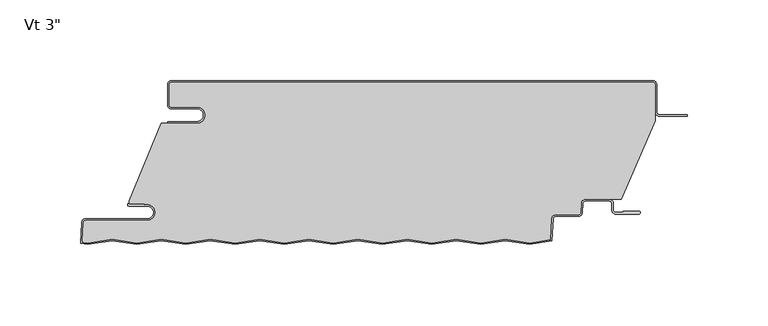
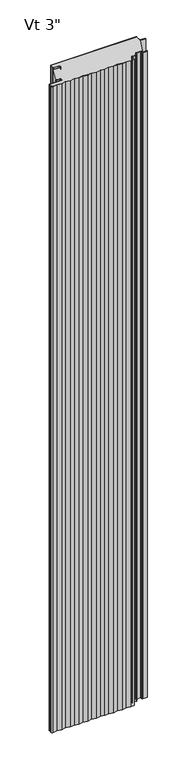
"""IFC4 building model written with IfcOpenShell, lengths in millimetres: plate geometry."""

from ifc_helpers import new_model, si_unit, point, frame, frame_2d, origin, origin_with_axes, place, context, project, spatial, polyline, circle_curve, ellipse_curve, trimmed, segment, composite_curve, outline, extrude, source, transform, mapped, element, save
from ifc_brep_helpers import plane_surface, cylinder_surface, revolved_surface, extruded_surface, advanced_brep


def plate_24a66fb3(model_context):
    return source(origin(), model_context, "Body", "SolidModel", [
        extrude(outline(composite_curve([segment(polyline([(-133.35625, -16.4625), (-149.23125, -16.4625)]), True, "CONTINUOUS"), segment(trimmed(circle_curve(frame_2d((-149.23125, -15.08125)), 1.38125), [point((-149.23125, -16.4625))], [point((-150.6125, -15.08125))], False, "CARTESIAN"), True, "CONTINUOUS"), segment(polyline([(-150.6125, -15.08125), (-150.6125, -2.38125)]), True, "CONTINUOUS"), segment(trimmed(circle_curve(frame_2d((-149.23125, -2.38125)), 1.38125), [point((-150.6125, -2.38125))], [point((-149.23125, -1.0))], False, "CARTESIAN"), True, "CONTINUOUS"), segment(polyline([(-149.23125, -1.0), (149.21875, -1.0)]), True, "CONTINUOUS"), segment(trimmed(circle_curve(frame_2d((149.21875, -2.38125)), 1.38125), [point((149.21875, -1.0))], [point((150.6, -2.38125))], False, "CARTESIAN"), True, "CONTINUOUS"), segment(polyline([(150.6, -2.38125), (150.6, -24.9057308), (129.7830434, -73.6125), (107.3415783, -73.6125)]), True, "CONTINUOUS"), segment(trimmed(circle_curve(frame_2d((107.3415783, -76.2)), 2.5875), [point((107.3415783, -73.6125))], [point((104.7576244, -76.0645807))], True, "CARTESIAN"), True, "CONTINUOUS"), segment(polyline([(104.7576244, -76.0645807), (104.4555481, -81.828539)]), True, "CONTINUOUS"), segment(trimmed(circle_curve(frame_2d((103.0761911, -81.75625)), 1.38125), [point((104.4555481, -81.828539))], [point((103.0761911, -83.1375))], False, "CARTESIAN"), True, "CONTINUOUS"), segment(polyline([(103.0761911, -83.1375), (88.9198847, -83.1375)]), True, "CONTINUOUS"), segment(trimmed(circle_curve(frame_2d((88.9198847, -85.725)), 2.5875), [point((88.9198847, -83.1375))], [point((86.3359307, -85.5895807))], True, "CARTESIAN"), True, "CONTINUOUS"), segment(polyline([(86.3359307, -85.5895807), (85.6427661, -98.81595), (72.86, -100.8611926), (57.8225675, -98.4552034), (42.5825675, -100.8936034), (27.3425675, -98.4552034), (12.1025675, -100.8936034), (-3.1374325, -98.4552034), (-18.3774325, -100.8936034), (-33.6174325, -98.4552034), (-48.8574325, -100.8936034), (-64.0974325, -98.4552034), (-79.3374325, -100.8936034), (-94.5774325, -98.4552034), (-109.8174325, -100.8936034), (-125.0574325, -98.4552034), (-140.2974325, -100.8936034), (-155.5374325, -98.4552034), (-170.7774325, -100.8936034), (-186.0174325, -98.4552034), (-201.2574325, -100.8936034), (-203.5234208, -100.5310452)]), True, "CONTINUOUS"), segment(trimmed(circle_curve(frame_2d((-203.0924535, -99.21875)), 1.38125), [point((-203.5234208, -100.5310452))], [point((-204.4718106, -99.146461))], False, "CARTESIAN"), True, "CONTINUOUS"), segment(polyline([(-204.4718106, -99.146461), (-203.8894291, -88.033961)]), True, "CONTINUOUS"), segment(trimmed(circle_curve(frame_2d((-202.5100721, -88.10625)), 1.38125), [point((-203.8894291, -88.033961))], [point((-202.5100721, -86.725))], False, "CARTESIAN"), True, "CONTINUOUS"), segment(polyline([(-202.5100721, -86.725), (-164.3267674, -86.725)]), True, "CONTINUOUS"), segment(trimmed(circle_curve(frame_2d((-164.3267674, -81.75625)), 4.96875), [point((-164.3267674, -86.725))], [point((-164.3267674, -76.7875))], True, "CARTESIAN"), True, "CONTINUOUS"), segment(polyline([(-164.3267674, -76.7875), (-165.9142674, -76.99375), (-165.9142674, -76.2), (-175.425, -76.2), (-175.425, -74.6157227), (-155.5385922, -26.4), (-133.35625, -26.4)]), True, "CONTINUOUS"), segment(trimmed(circle_curve(frame_2d((-133.35625, -21.43125)), 4.96875), [point((-133.35625, -26.4))], [point((-133.35625, -16.4625))], True, "CARTESIAN"), True, "CONTINUOUS")], self_intersect=False)), origin_with_axes(), (0.0, 0.0, 1.0), 2400.0),
        extrude(outline(composite_curve([segment(polyline([(-151.6125, -25.4), (-133.35625, -25.4)]), True, "CONTINUOUS"), segment(trimmed(circle_curve(frame_2d((-133.35625, -21.43125)), 3.96875), [point((-133.35625, -25.4))], [point((-133.35625, -17.4625))], True, "CARTESIAN"), True, "CONTINUOUS"), segment(polyline([(-133.35625, -17.4625), (-149.23125, -17.4625)]), True, "CONTINUOUS"), segment(trimmed(circle_curve(frame_2d((-149.23125, -15.08125)), 2.38125), [point((-149.23125, -17.4625))], [point((-151.6125, -15.08125))], False, "CARTESIAN"), True, "CONTINUOUS"), segment(polyline([(-151.6125, -15.08125), (-151.6125, -2.38125)]), True, "CONTINUOUS"), segment(trimmed(circle_curve(frame_2d((-149.23125, -2.38125)), 2.38125), [point((-151.6125, -2.38125))], [point((-149.23125, 0.0))], False, "CARTESIAN"), True, "CONTINUOUS"), segment(polyline([(-149.23125, 0.0), (149.21875, 0.0)]), True, "CONTINUOUS"), segment(trimmed(circle_curve(frame_2d((149.21875, -2.38125)), 2.38125), [point((149.21875, 0.0))], [point((151.6, -2.38125))], False, "CARTESIAN"), True, "CONTINUOUS"), segment(polyline([(151.6, -2.38125), (151.6, -19.446875)]), True, "CONTINUOUS"), segment(trimmed(circle_curve(frame_2d((153.1875, -19.446875)), 1.5875), [point((151.6, -19.446875))], [point((153.1875, -21.034375))], True, "CARTESIAN"), True, "CONTINUOUS"), segment(polyline([(153.1875, -21.034375), (170.65, -21.034375), (170.65, -22.034375), (153.1875, -22.034375)]), True, "CONTINUOUS"), segment(trimmed(circle_curve(frame_2d((153.1875, -19.446875)), 2.5875), [point((153.1875, -22.034375))], [point((150.6, -19.446875))], False, "CARTESIAN"), True, "CONTINUOUS"), segment(polyline([(150.6, -19.446875), (150.6, -2.38125)]), True, "CONTINUOUS"), segment(trimmed(circle_curve(frame_2d((149.21875, -2.38125)), 1.38125), [point((150.6, -2.38125))], [point((149.21875, -1.0))], True, "CARTESIAN"), True, "CONTINUOUS"), segment(polyline([(149.21875, -1.0), (-149.23125, -1.0)]), True, "CONTINUOUS"), segment(trimmed(circle_curve(frame_2d((-149.23125, -2.38125)), 1.38125), [point((-149.23125, -1.0))], [point((-150.6125, -2.38125))], True, "CARTESIAN"), True, "CONTINUOUS"), segment(polyline([(-150.6125, -2.38125), (-150.6125, -15.08125)]), True, "CONTINUOUS"), segment(trimmed(circle_curve(frame_2d((-149.23125, -15.08125)), 1.38125), [point((-150.6125, -15.08125))], [point((-149.23125, -16.4625))], True, "CARTESIAN"), True, "CONTINUOUS"), segment(polyline([(-149.23125, -16.4625), (-133.35625, -16.4625)]), True, "CONTINUOUS"), segment(trimmed(circle_curve(frame_2d((-133.35625, -21.43125)), 4.96875), [point((-133.35625, -16.4625))], [point((-133.35625, -26.4))], False, "CARTESIAN"), True, "CONTINUOUS"), segment(polyline([(-133.35625, -26.4), (-151.6125, -26.4), (-151.6125, -25.4)]), True, "CONTINUOUS")], self_intersect=False)), origin_with_axes(), (0.0, 0.0, 1.0), 2400.0),
        advanced_brep(
        [(-175.6377049, -76.2, 2400.0), (-175.6377049, -77.7875, 2400.0), (-164.3267674, -77.7875, 2400.0), (-164.3267674, -85.725, 2400.0), (-202.5100721, -85.725, 2400.0), (-204.8880586, -87.981625, 2400.0), (-205.5658062, -100.913818, 2400.0), (-201.2771686, -101.6, 2400.0), (-186.0371686, -99.1616, 2400.0), (-170.7971686, -101.6, 2400.0), (-155.5571686, -99.1616, 2400.0), (-140.3171686, -101.6, 2400.0), (-125.0771686, -99.1616, 2400.0), (-109.8371686, -101.6, 2400.0), (-94.5971686, -99.1616, 2400.0), (-79.3571686, -101.6, 2400.0), (-64.1171686, -99.1616, 2400.0), (-48.8771686, -101.6, 2400.0), (-33.6371686, -99.1616, 2400.0), (-18.3971686, -101.6, 2400.0), (-3.1571686, -99.1616, 2400.0), (12.0828314, -101.6, 2400.0), (27.3228314, -99.1616, 2400.0), (42.5628314, -101.6, 2400.0), (57.8028314, -99.1616, 2400.0), (72.9415476, -101.5837946, 2400.0), (86.6120135, -99.4289309, 2400.0), (87.3345603, -85.6419167, 2400.0), (88.9198847, -84.1375, 2400.0), (103.0761911, -84.1375, 2400.0), (105.4541776, -81.880875, 2400.0), (105.7562539, -76.1169167, 2400.0), (107.3415783, -74.6125, 2400.0), (122.2169826, -74.6125, 2400.0), (123.8044826, -76.2, 2400.0), (123.8044826, -80.3671875, 2400.0), (126.1857326, -82.7484375, 2400.0), (140.6773532, -82.7484375, 2400.0), (140.6773532, -80.9546875, 2400.0), (130.9482326, -80.9546875, 2400.0), (130.9482326, -81.7484375, 2400.0), (126.1857326, -81.7484375, 2400.0), (124.8044826, -80.3671875, 2400.0), (124.8044826, -76.2, 2400.0), (122.2169826, -73.6125, 2400.0), (107.3415783, -73.6125, 2400.0), (104.7576244, -76.0645807, 2400.0), (104.4555481, -81.828539, 2400.0), (103.0761911, -83.1375, 2400.0), (88.9198847, -83.1375, 2400.0), (86.3359307, -85.5895807, 2400.0), (85.6556965, -98.5692225, 2400.0), (73.0428314, -100.5872809, 2400.0), (57.8028314, -98.1488809, 2400.0), (42.5628314, -100.5872809, 2400.0), (27.3228314, -98.1488809, 2400.0), (12.0828314, -100.5872809, 2400.0), (-3.1571686, -98.1488809, 2400.0), (-18.3971686, -100.5872809, 2400.0), (-33.6371686, -98.1488809, 2400.0), (-48.8771686, -100.5872809, 2400.0), (-64.1171686, -98.1488809, 2400.0), (-79.3571686, -100.5872809, 2400.0), (-94.5971686, -98.1488809, 2400.0), (-109.8371686, -100.5872809, 2400.0), (-125.0771686, -98.1488809, 2400.0), (-140.3171686, -100.5872809, 2400.0), (-155.5571686, -98.1488809, 2400.0), (-170.7971686, -100.5872809, 2400.0), (-186.0371686, -98.1488809, 2400.0), (-201.2771686, -100.5872809, 2400.0), (-204.5201277, -100.0684074, 2400.0), (-203.8894291, -88.033961, 2400.0), (-202.5100721, -86.725, 2400.0), (-164.3267674, -86.725, 2400.0), (-164.3267674, -76.7875, 2400.0), (-165.9142674, -76.99375, 2400.0), (-165.9142674, -76.2, 2400.0), (-175.6377049, -76.2, 0.0), (-165.9142674, -76.2, 0.0), (-165.9142674, -76.99375, 0.0), (-164.3267674, -76.7875, 0.0), (-164.3267674, -86.725, 0.0), (-202.5100721, -86.725, 0.0), (-203.8894291, -88.033961, 0.0), (-204.5201277, -100.0684074, 0.0), (-201.2771686, -100.5872809, 0.0), (-186.0371686, -98.1488809, 0.0), (-170.7971686, -100.5872809, 0.0), (-155.5571686, -98.1488809, 0.0), (-140.3171686, -100.5872809, 0.0), (-125.0771686, -98.1488809, 0.0), (-109.8371686, -100.5872809, 0.0), (-94.5971686, -98.1488809, 0.0), (-79.3571686, -100.5872809, 0.0), (-64.1171686, -98.1488809, 0.0), (-48.8771686, -100.5872809, 0.0), (-33.6371686, -98.1488809, 0.0), (-18.3971686, -100.5872809, 0.0), (-3.1571686, -98.1488809, 0.0), (12.0828314, -100.5872809, 0.0), (27.3228314, -98.1488809, 0.0), (42.5628314, -100.5872809, 0.0), (57.8028314, -98.1488809, 0.0), (72.9415476, -100.5710755, 0.0), (85.6556965, -98.5692225, 0.0), (86.3359307, -85.5895807, 0.0), (88.9198847, -83.1375, 0.0), (103.0761911, -83.1375, 0.0), (104.4555481, -81.828539, 0.0), (104.7576244, -76.0645807, 0.0), (107.3415783, -73.6125, 0.0), (122.2169826, -73.6125, 0.0), (124.8044826, -76.2, 0.0), (124.8044826, -80.3671875, 0.0), (126.1857326, -81.7484375, 0.0), (130.9482326, -81.7484375, 0.0), (130.9482326, -80.9546875, 0.0), (140.6773532, -80.9546875, 0.0), (140.6773532, -82.7484375, 0.0), (126.1857326, -82.7484375, 0.0), (123.8044826, -80.3671875, 0.0), (123.8044826, -76.2, 0.0), (122.2169826, -74.6125, 0.0), (107.3415783, -74.6125, 0.0), (105.7562539, -76.1169167, 0.0), (105.4541776, -81.880875, 0.0), (103.0761911, -84.1375, 0.0), (88.9198847, -84.1375, 0.0), (87.3345603, -85.6419167, 0.0), (86.6120135, -99.4289309, 0.0), (73.0428314, -101.6, 0.0), (57.8028314, -99.1616, 0.0), (42.5628314, -101.6, 0.0), (27.3228314, -99.1616, 0.0), (12.0828314, -101.6, 0.0), (-3.1571686, -99.1616, 0.0), (-18.3971686, -101.6, 0.0), (-33.6371686, -99.1616, 0.0), (-48.8771686, -101.6, 0.0), (-64.1171686, -99.1616, 0.0), (-79.3571686, -101.6, 0.0), (-94.5971686, -99.1616, 0.0), (-109.8371686, -101.6, 0.0), (-125.0771686, -99.1616, 0.0), (-140.3171686, -101.6, 0.0), (-155.5571686, -99.1616, 0.0), (-170.7971686, -101.6, 0.0), (-186.0371686, -99.1616, 0.0), (-201.2771686, -101.6, 0.0), (-205.5658062, -100.913818, 0.0), (-204.8880586, -87.981625, 0.0), (-202.5100721, -85.725, 0.0), (-164.3267674, -85.725, 0.0), (-164.3267674, -77.7875, 0.0), (-175.6377049, -77.7875, 0.0)],
        [
            (0, 1, circle_curve(frame((-175.6377049, -76.99375, 2400.0), z_axis=(0.0, 0.0, 1.0), x_axis=(1.0, 0.0, 0.0)), 0.79375)),
            (1, 2),
            (2, 3, circle_curve(frame((-164.3267674, -81.75625, 2400.0), z_axis=(0.0, 0.0, -1.0), x_axis=(1.0, 0.0, 0.0)), 3.96875)),
            (3, 4),
            (4, 5, circle_curve(frame((-202.5100721, -88.10625, 2400.0), z_axis=(0.0, 0.0, 1.0), x_axis=(1.0, 0.0, 0.0)), 2.38125)),
            (5, 6),
            (6, 7),
            (7, 8),
            (8, 9),
            (9, 10),
            (10, 11),
            (11, 12),
            (12, 13),
            (13, 14),
            (14, 15),
            (15, 16),
            (16, 17),
            (17, 18),
            (18, 19),
            (19, 20),
            (20, 21),
            (21, 22),
            (22, 23),
            (23, 24),
            (24, 25),
            (25, 26),
            (26, 27),
            (27, 28, circle_curve(frame((88.9198847, -85.725, 2400.0), z_axis=(0.0, 0.0, -1.0), x_axis=(1.0, 0.0, 0.0)), 1.5875)),
            (28, 29),
            (29, 30, circle_curve(frame((103.0761911, -81.75625, 2400.0), z_axis=(0.0, 0.0, 1.0), x_axis=(1.0, 0.0, 0.0)), 2.38125)),
            (30, 31),
            (31, 32, circle_curve(frame((107.3415783, -76.2, 2400.0), z_axis=(0.0, 0.0, -1.0), x_axis=(1.0, 0.0, 0.0)), 1.5875)),
            (32, 33),
            (33, 34, circle_curve(frame((122.2169826, -76.2, 2400.0), z_axis=(0.0, 0.0, -1.0), x_axis=(1.0, 0.0, 0.0)), 1.5875)),
            (34, 35),
            (35, 36, circle_curve(frame((126.1857326, -80.3671875, 2400.0), z_axis=(0.0, 0.0, 1.0), x_axis=(1.0, 0.0, 0.0)), 2.38125)),
            (36, 37),
            (37, 38, ellipse_curve(frame((140.6773532, -81.8515625, 2400.0), z_axis=(0.0, 0.0, 1.0), x_axis=(0.0, 1.0, 0.0)), 0.896875, 0.7852275)),
            (38, 39),
            (39, 40),
            (40, 41),
            (41, 42, circle_curve(frame((126.1857326, -80.3671875, 2400.0), z_axis=(0.0, 0.0, -1.0), x_axis=(1.0, 0.0, 0.0)), 1.38125)),
            (42, 43),
            (43, 44, circle_curve(frame((122.2169826, -76.2, 2400.0), z_axis=(0.0, 0.0, 1.0), x_axis=(1.0, 0.0, 0.0)), 2.5875)),
            (44, 45),
            (45, 46, circle_curve(frame((107.3415783, -76.2, 2400.0), z_axis=(0.0, 0.0, 1.0), x_axis=(1.0, 0.0, 0.0)), 2.5875)),
            (46, 47),
            (47, 48, circle_curve(frame((103.0761911, -81.75625, 2400.0), z_axis=(0.0, 0.0, -1.0), x_axis=(1.0, 0.0, 0.0)), 1.38125)),
            (48, 49),
            (49, 50, circle_curve(frame((88.9198847, -85.725, 2400.0), z_axis=(0.0, 0.0, 1.0), x_axis=(1.0, 0.0, 0.0)), 2.5875)),
            (50, 51),
            (51, 52),
            (52, 53),
            (53, 54),
            (54, 55),
            (55, 56),
            (56, 57),
            (57, 58),
            (58, 59),
            (59, 60),
            (60, 61),
            (61, 62),
            (62, 63),
            (63, 64),
            (64, 65),
            (65, 66),
            (66, 67),
            (67, 68),
            (68, 69),
            (69, 70),
            (70, 71),
            (71, 72),
            (72, 73, circle_curve(frame((-202.5100721, -88.10625, 2400.0), z_axis=(0.0, 0.0, -1.0), x_axis=(1.0, 0.0, 0.0)), 1.38125)),
            (73, 74),
            (74, 75, circle_curve(frame((-164.3267674, -81.75625, 2400.0), z_axis=(0.0, 0.0, 1.0), x_axis=(1.0, 0.0, 0.0)), 4.96875)),
            (75, 76),
            (76, 77),
            (77, 0),
            (78, 79),
            (79, 80),
            (80, 81),
            (81, 82, circle_curve(frame((-164.3267674, -81.75625, 0.0), z_axis=(0.0, 0.0, -1.0), x_axis=(1.0, 0.0, 0.0)), 4.96875)),
            (82, 83),
            (83, 84, circle_curve(frame((-202.5100721, -88.10625, 0.0), z_axis=(0.0, 0.0, 1.0), x_axis=(1.0, 0.0, 0.0)), 1.38125)),
            (84, 85),
            (85, 86),
            (86, 87),
            (87, 88),
            (88, 89),
            (89, 90),
            (90, 91),
            (91, 92),
            (92, 93),
            (93, 94),
            (94, 95),
            (95, 96),
            (96, 97),
            (97, 98),
            (98, 99),
            (99, 100),
            (100, 101),
            (101, 102),
            (102, 103),
            (103, 104),
            (104, 105),
            (105, 106),
            (106, 107, circle_curve(frame((88.9198847, -85.725, 0.0), z_axis=(0.0, 0.0, -1.0), x_axis=(1.0, 0.0, 0.0)), 2.5875)),
            (107, 108),
            (108, 109, circle_curve(frame((103.0761911, -81.75625, 0.0), z_axis=(0.0, 0.0, 1.0), x_axis=(1.0, 0.0, 0.0)), 1.38125)),
            (109, 110),
            (110, 111, circle_curve(frame((107.3415783, -76.2, 0.0), z_axis=(0.0, 0.0, -1.0), x_axis=(1.0, 0.0, 0.0)), 2.5875)),
            (111, 112),
            (112, 113, circle_curve(frame((122.2169826, -76.2, 0.0), z_axis=(0.0, 0.0, -1.0), x_axis=(1.0, 0.0, 0.0)), 2.5875)),
            (113, 114),
            (114, 115, circle_curve(frame((126.1857326, -80.3671875, 0.0), z_axis=(0.0, 0.0, 1.0), x_axis=(1.0, 0.0, 0.0)), 1.38125)),
            (115, 116),
            (116, 117),
            (117, 118),
            (118, 119, ellipse_curve(frame((140.6773532, -81.8515625, 0.0), z_axis=(0.0, 0.0, -1.0), x_axis=(0.0, 1.0, 0.0)), 0.896875, 0.7852275)),
            (119, 120),
            (120, 121, circle_curve(frame((126.1857326, -80.3671875, 0.0), z_axis=(0.0, 0.0, -1.0), x_axis=(1.0, 0.0, 0.0)), 2.38125)),
            (121, 122),
            (122, 123, circle_curve(frame((122.2169826, -76.2, 0.0), z_axis=(0.0, 0.0, 1.0), x_axis=(1.0, 0.0, 0.0)), 1.5875)),
            (123, 124),
            (124, 125, circle_curve(frame((107.3415783, -76.2, 0.0), z_axis=(0.0, 0.0, 1.0), x_axis=(1.0, 0.0, 0.0)), 1.5875)),
            (125, 126),
            (126, 127, circle_curve(frame((103.0761911, -81.75625, 0.0), z_axis=(0.0, 0.0, -1.0), x_axis=(1.0, 0.0, 0.0)), 2.38125)),
            (127, 128),
            (128, 129, circle_curve(frame((88.9198847, -85.725, 0.0), z_axis=(0.0, 0.0, 1.0), x_axis=(1.0, 0.0, 0.0)), 1.5875)),
            (129, 130),
            (130, 131),
            (131, 132),
            (132, 133),
            (133, 134),
            (134, 135),
            (135, 136),
            (136, 137),
            (137, 138),
            (138, 139),
            (139, 140),
            (140, 141),
            (141, 142),
            (142, 143),
            (143, 144),
            (144, 145),
            (145, 146),
            (146, 147),
            (147, 148),
            (148, 149),
            (149, 150),
            (150, 151),
            (151, 152, circle_curve(frame((-202.5100721, -88.10625, 0.0), z_axis=(0.0, 0.0, -1.0), x_axis=(1.0, 0.0, 0.0)), 2.38125)),
            (152, 153),
            (153, 154, circle_curve(frame((-164.3267674, -81.75625, 0.0), z_axis=(0.0, 0.0, 1.0), x_axis=(1.0, 0.0, 0.0)), 3.96875)),
            (154, 155),
            (155, 78, circle_curve(frame((-175.6377049, -76.99375, 0.0), z_axis=(0.0, 0.0, -1.0), x_axis=(1.0, 0.0, 0.0)), 0.79375)),
            (77, 79),
            (78, 0),
            (155, 1),
            (154, 2),
            (153, 3),
            (152, 4),
            (151, 5),
            (150, 6),
            (27, 129),
            (128, 28),
            (127, 29),
            (126, 30),
            (125, 31),
            (124, 32),
            (72, 84),
            (83, 73),
            (71, 85),
            (49, 107),
            (106, 50),
            (48, 108),
            (47, 109),
            (46, 110),
            (45, 111),
            (40, 116),
            (115, 41),
            (114, 42),
            (113, 43),
            (123, 33),
            (122, 34),
            (121, 35),
            (120, 36),
            (119, 37),
            (44, 112),
            (82, 74),
            (81, 75),
            (76, 80),
            (39, 117),
            (38, 118),
            (26, 130),
            (105, 51),
            (24, 132),
            (131, 25),
            (52, 104),
            (103, 53),
            (102, 54),
            (101, 55),
            (100, 56),
            (65, 91),
            (90, 66),
            (89, 67),
            (88, 68),
            (87, 69),
            (86, 70),
            (149, 7),
            (148, 8),
            (147, 9),
            (146, 10),
            (145, 11),
            (144, 12),
            (143, 13),
            (142, 14),
            (141, 15),
            (140, 16),
            (139, 17),
            (138, 18),
            (21, 135),
            (134, 22),
            (133, 23),
            (20, 136),
            (19, 137),
            (64, 92),
            (63, 93),
            (62, 94),
            (61, 95),
            (60, 96),
            (59, 97),
            (58, 98),
            (57, 99),
        ],
        [
            plane_surface(frame((-0.00625, -101.6, 2400.0), z_axis=(0.0, 0.0, 1.0), x_axis=(0.0, -1.0, 0.0))),
            plane_surface(frame((-0.00625, -101.6, 0.0), z_axis=(0.0, 0.0, -1.0), x_axis=(0.0, -1.0, 0.0))),
            plane_surface(frame((-175.6377049, -76.2, 2400.0), z_axis=(0.0, 1.0, 0.0), x_axis=(0.0, 0.0, -1.0))),
            cylinder_surface(frame((-175.6377049, -76.99375, 2400.0), z_axis=(0.0, 0.0, 1.0), x_axis=(1.0, 0.0, 0.0)), 0.79375),
            plane_surface(frame((-164.3267674, -77.7875, 2400.0), z_axis=(0.0, -1.0, 0.0), x_axis=(0.0, 0.0, -1.0))),
            revolved_surface(polyline([(-160.3580174, -81.75625, 0.0), (-160.3580174, -81.75625, 2400.0)]), (-164.3267674, -81.75625, 2400.0), (0.0, 0.0, -1.0)),
            plane_surface(frame((-202.5100721, -85.725, 2400.0), z_axis=(0.0, 1.0, 0.0), x_axis=(0.0, 0.0, -1.0))),
            cylinder_surface(frame((-202.5100721, -88.10625, 2400.0), z_axis=(0.0, 0.0, 1.0), x_axis=(1.0, 0.0, 0.0)), 2.38125),
            plane_surface(frame((-205.5658062, -100.913818, 2400.0), z_axis=(-0.9986295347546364, 0.05233595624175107, 0.0), x_axis=(0.0, 0.0, -1.0))),
            revolved_surface(polyline([(90.5073847, -85.725, 0.0), (90.5073847, -85.725, 2400.0)]), (88.9198847, -85.725, 2400.0), (0.0, 0.0, -1.0)),
            plane_surface(frame((103.0761911, -84.1375, 2400.0), z_axis=(0.0, -1.0, 0.0), x_axis=(0.0, 0.0, -1.0))),
            cylinder_surface(frame((103.0761911, -81.75625, 2400.0), z_axis=(0.0, 0.0, 1.0), x_axis=(1.0, 0.0, 0.0)), 2.38125),
            plane_surface(frame((105.7562539, -76.1169167, 2400.0), z_axis=(0.9986295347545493, -0.052335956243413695, 0.0), x_axis=(0.0, 0.0, -1.0))),
            revolved_surface(polyline([(108.9290783, -76.2, 0.0), (108.9290783, -76.2, 2400.0)]), (107.3415783, -76.2, 2400.0), (0.0, 0.0, -1.0)),
            revolved_surface(polyline([(-201.1288221, -88.10625, 0.0), (-201.1288221, -88.10625, 2400.0)]), (-202.5100721, -88.10625, 2400.0), (0.0, 0.0, -1.0)),
            plane_surface(frame((-203.8894291, -88.033961, 2400.0), z_axis=(0.9986295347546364, -0.05233595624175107, 0.0), x_axis=(0.0, 0.0, -1.0))),
            cylinder_surface(frame((88.9198847, -85.725, 2400.0), z_axis=(0.0, 0.0, 1.0), x_axis=(1.0, 0.0, 0.0)), 2.5875),
            plane_surface(frame((88.9198847, -83.1375, 2400.0), z_axis=(0.0, 1.0, 0.0), x_axis=(0.0, 0.0, -1.0))),
            revolved_surface(polyline([(104.4574411, -81.75625, 0.0), (104.4574411, -81.75625, 2400.0)]), (103.0761911, -81.75625, 2400.0), (0.0, 0.0, -1.0)),
            plane_surface(frame((104.4555481, -81.828539, 2400.0), z_axis=(-0.998629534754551, 0.05233595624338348, 0.0), x_axis=(0.0, 0.0, -1.0))),
            cylinder_surface(frame((107.3415783, -76.2, 2400.0), z_axis=(0.0, 0.0, 1.0), x_axis=(1.0, 0.0, 0.0)), 2.5875),
            plane_surface(frame((126.1857326, -81.7484375, 2400.0), z_axis=(0.0, 1.0, 0.0), x_axis=(0.0, 0.0, -1.0))),
            revolved_surface(polyline([(127.56698259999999, -80.3671875, 0.0), (127.56698259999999, -80.3671875, 2400.0)]), (126.1857326, -80.3671875, 2400.0), (0.0, 0.0, -1.0)),
            plane_surface(frame((124.8044826, -76.2, 2400.0), z_axis=(1.0, 0.0, 0.0), x_axis=(0.0, 0.0, -1.0))),
            plane_surface(frame((122.2169826, -74.6125, 2400.0), z_axis=(0.0, -1.0, 0.0), x_axis=(0.0, 0.0, -1.0))),
            revolved_surface(polyline([(123.8044826, -76.2, 0.0), (123.8044826, -76.2, 2400.0)]), (122.2169826, -76.2, 2400.0), (0.0, 0.0, -1.0)),
            plane_surface(frame((123.8044826, -80.3671875, 2400.0), z_axis=(-1.0, 0.0, 0.0), x_axis=(0.0, 0.0, -1.0))),
            cylinder_surface(frame((126.1857326, -80.3671875, 2400.0), z_axis=(0.0, 0.0, 1.0), x_axis=(1.0, 0.0, 0.0)), 2.38125),
            plane_surface(frame((140.6773532, -82.7484375, 2400.0), z_axis=(0.0, -1.0, 0.0), x_axis=(0.0, 0.0, -1.0))),
            plane_surface(frame((107.3415783, -73.6125, 2400.0), z_axis=(0.0, 1.0, 0.0), x_axis=(0.0, 0.0, -1.0))),
            cylinder_surface(frame((122.2169826, -76.2, 2400.0), z_axis=(0.0, 0.0, 1.0), x_axis=(1.0, 0.0, 0.0)), 2.5875),
            plane_surface(frame((-164.3267674, -86.725, 2400.0), z_axis=(0.0, -1.0, 0.0), x_axis=(0.0, 0.0, -1.0))),
            cylinder_surface(frame((-164.3267674, -81.75625, 2400.0), z_axis=(0.0, 0.0, 1.0), x_axis=(1.0, 0.0, 0.0)), 4.96875),
            plane_surface(frame((-165.9142674, -76.2, 2400.0), z_axis=(1.0, 0.0, 0.0), x_axis=(0.0, 0.0, -1.0))),
            plane_surface(frame((-165.9142674, -76.99375, 2400.0), z_axis=(-0.12883844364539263, 0.9916655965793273, 0.0), x_axis=(0.0, 0.0, -1.0))),
            plane_surface(frame((130.9482326, -81.7484375, 2400.0), z_axis=(-1.0, 0.0, 0.0), x_axis=(0.0, 0.0, -1.0))),
            plane_surface(frame((130.9482326, -80.9546875, 2400.0), z_axis=(0.0, 1.0, 0.0), x_axis=(0.0, 0.0, -1.0))),
            extruded_surface(trimmed(ellipse_curve(frame((140.6773532, -81.8515625, 2400.0), z_axis=(0.0, 0.0, -1.0), x_axis=(0.0, 1.0, 0.0)), 0.896875, 0.7852275), [point((140.6773532, -80.9546875, 2400.0))], [point((140.6773532, -82.7484375, 2400.0))], True, "CARTESIAN"), (0.0, 0.0, -2400.0), 2400.0),
            plane_surface(frame((87.3345603, -85.6419167, 2400.0), z_axis=(0.9986295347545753, -0.052335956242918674, 0.0), x_axis=(0.0, 0.0, -1.0))),
            plane_surface(frame((85.6556965, -98.5692225, 2400.0), z_axis=(-0.9986295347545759, 0.05233595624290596, 0.0), x_axis=(0.0, 0.0, -1.0))),
            plane_surface(frame((72.9415476, -101.5837946, 2400.0), z_axis=(-0.15799050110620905, -0.9874406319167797, 0.0), x_axis=(0.0, 0.0, -1.0))),
            plane_surface(frame((57.8028314, -98.1488809, 2400.0), z_axis=(0.15799050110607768, 0.9874406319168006, 0.0), x_axis=(0.0, 0.0, -1.0))),
            plane_surface(frame((42.5628314, -100.5872809, 2400.0), z_axis=(-0.15799050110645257, 0.9874406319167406, 0.0), x_axis=(0.0, 0.0, -1.0))),
            plane_surface(frame((27.3228314, -98.1488809, 2400.0), z_axis=(0.157990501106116, 0.9874406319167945, 0.0), x_axis=(0.0, 0.0, -1.0))),
            plane_surface(frame((12.0828314, -100.5872809, 2400.0), z_axis=(-0.15799050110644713, 0.9874406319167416, 0.0), x_axis=(0.0, 0.0, -1.0))),
            plane_surface(frame((-140.3171686, -100.5872809, 2400.0), z_axis=(-0.15799050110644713, 0.9874406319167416, 0.0), x_axis=(0.0, 0.0, -1.0))),
            plane_surface(frame((-155.5571686, -98.1488809, 2400.0), z_axis=(0.15799050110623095, 0.9874406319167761, 0.0), x_axis=(0.0, 0.0, -1.0))),
            plane_surface(frame((-170.7971686, -100.5872809, 2400.0), z_axis=(-0.15799050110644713, 0.9874406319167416, 0.0), x_axis=(0.0, 0.0, -1.0))),
            plane_surface(frame((-186.0371686, -98.1488809, 2400.0), z_axis=(0.157990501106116, 0.9874406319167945, 0.0), x_axis=(0.0, 0.0, -1.0))),
            plane_surface(frame((-201.2771686, -100.5872809, 2400.0), z_axis=(-0.15799050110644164, 0.9874406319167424, 0.0), x_axis=(0.0, 0.0, -1.0))),
            plane_surface(frame((-204.5201277, -100.0684074, 2400.0), z_axis=(0.1579905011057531, 0.9874406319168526, 0.0), x_axis=(0.0, 0.0, -1.0))),
            plane_surface(frame((-201.2771686, -101.6, 2400.0), z_axis=(-0.15799050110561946, -0.9874406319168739, 0.0), x_axis=(0.0, 0.0, -1.0))),
            plane_surface(frame((-186.0371686, -99.1616, 2400.0), z_axis=(0.15799050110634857, -0.9874406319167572, 0.0), x_axis=(0.0, 0.0, -1.0))),
            plane_surface(frame((-170.7971686, -101.6, 2400.0), z_axis=(-0.15799050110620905, -0.9874406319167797, 0.0), x_axis=(0.0, 0.0, -1.0))),
            plane_surface(frame((-155.5571686, -99.1616, 2400.0), z_axis=(0.15799050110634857, -0.9874406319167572, 0.0), x_axis=(0.0, 0.0, -1.0))),
            plane_surface(frame((-140.3171686, -101.6, 2400.0), z_axis=(-0.15799050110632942, -0.9874406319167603, 0.0), x_axis=(0.0, 0.0, -1.0))),
            plane_surface(frame((-125.0771686, -99.1616, 2400.0), z_axis=(0.15799050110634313, -0.9874406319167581, 0.0), x_axis=(0.0, 0.0, -1.0))),
            plane_surface(frame((-109.8371686, -101.6, 2400.0), z_axis=(-0.15799050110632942, -0.9874406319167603, 0.0), x_axis=(0.0, 0.0, -1.0))),
            plane_surface(frame((-94.5971686, -99.1616, 2400.0), z_axis=(0.1579905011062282, -0.9874406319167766, 0.0), x_axis=(0.0, 0.0, -1.0))),
            plane_surface(frame((-79.3571686, -101.6, 2400.0), z_axis=(-0.15799050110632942, -0.9874406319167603, 0.0), x_axis=(0.0, 0.0, -1.0))),
            plane_surface(frame((-64.1171686, -99.1616, 2400.0), z_axis=(0.15799050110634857, -0.9874406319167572, 0.0), x_axis=(0.0, 0.0, -1.0))),
            plane_surface(frame((-48.8771686, -101.6, 2400.0), z_axis=(-0.15799050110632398, -0.9874406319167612, 0.0), x_axis=(0.0, 0.0, -1.0))),
            plane_surface(frame((-33.6371686, -99.1616, 2400.0), z_axis=(0.15799050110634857, -0.9874406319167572, 0.0), x_axis=(0.0, 0.0, -1.0))),
            plane_surface(frame((27.3228314, -99.1616, 2400.0), z_axis=(0.15799050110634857, -0.9874406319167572, 0.0), x_axis=(0.0, 0.0, -1.0))),
            plane_surface(frame((42.5628314, -101.6, 2400.0), z_axis=(-0.15799050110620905, -0.9874406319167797, 0.0), x_axis=(0.0, 0.0, -1.0))),
            plane_surface(frame((57.8028314, -99.1616, 2400.0), z_axis=(0.15799050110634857, -0.9874406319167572, 0.0), x_axis=(0.0, 0.0, -1.0))),
            plane_surface(frame((86.6120135, -99.4289309, 2400.0), z_axis=(0.15799050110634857, -0.9874406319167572, 0.0), x_axis=(0.0, 0.0, -1.0))),
            plane_surface(frame((73.0428314, -100.5872809, 2400.0), z_axis=(-0.15799050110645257, 0.9874406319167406, 0.0), x_axis=(0.0, 0.0, -1.0))),
            plane_surface(frame((12.0828314, -101.6, 2400.0), z_axis=(-0.15799050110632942, -0.9874406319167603, 0.0), x_axis=(0.0, 0.0, -1.0))),
            plane_surface(frame((-3.1571686, -99.1616, 2400.0), z_axis=(0.15799050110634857, -0.9874406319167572, 0.0), x_axis=(0.0, 0.0, -1.0))),
            plane_surface(frame((-18.3971686, -101.6, 2400.0), z_axis=(-0.15799050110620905, -0.9874406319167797, 0.0), x_axis=(0.0, 0.0, -1.0))),
            plane_surface(frame((-125.0771686, -98.1488809, 2400.0), z_axis=(0.15799050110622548, 0.987440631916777, 0.0), x_axis=(0.0, 0.0, -1.0))),
            plane_surface(frame((-109.8371686, -100.5872809, 2400.0), z_axis=(-0.15799050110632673, 0.9874406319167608, 0.0), x_axis=(0.0, 0.0, -1.0))),
            plane_surface(frame((-94.5971686, -98.1488809, 2400.0), z_axis=(0.15799050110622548, 0.987440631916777, 0.0), x_axis=(0.0, 0.0, -1.0))),
            plane_surface(frame((-79.3571686, -100.5872809, 2400.0), z_axis=(-0.15799050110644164, 0.9874406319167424, 0.0), x_axis=(0.0, 0.0, -1.0))),
            plane_surface(frame((-64.1171686, -98.1488809, 2400.0), z_axis=(0.15799050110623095, 0.9874406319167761, 0.0), x_axis=(0.0, 0.0, -1.0))),
            plane_surface(frame((-48.8771686, -100.5872809, 2400.0), z_axis=(-0.15799050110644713, 0.9874406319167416, 0.0), x_axis=(0.0, 0.0, -1.0))),
            plane_surface(frame((-33.6371686, -98.1488809, 2400.0), z_axis=(0.157990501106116, 0.9874406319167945, 0.0), x_axis=(0.0, 0.0, -1.0))),
            plane_surface(frame((-18.3971686, -100.5872809, 2400.0), z_axis=(-0.15799050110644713, 0.9874406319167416, 0.0), x_axis=(0.0, 0.0, -1.0))),
            plane_surface(frame((-3.1571686, -98.1488809, 2400.0), z_axis=(0.15799050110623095, 0.9874406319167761, 0.0), x_axis=(0.0, 0.0, -1.0))),
        ],
        [
            (0, [[1, 2, 3, 4, 5, 6, 7, 8, 9, 10, 11, 12, 13, 14, 15, 16, 17, 18, 19, 20, 21, 22, 23, 24, 25, 26, 27, 28, 29, 30, 31, 32, 33, 34, 35, 36, 37, 38, 39, 40, 41, 42, 43, 44, 45, 46, 47, 48, 49, 50, 51, 52, 53, 54, 55, 56, 57, 58, 59, 60, 61, 62, 63, 64, 65, 66, 67, 68, 69, 70, 71, 72, 73, 74, 75, 76, 77, 78]]),
            (1, [[79, 80, 81, 82, 83, 84, 85, 86, 87, 88, 89, 90, 91, 92, 93, 94, 95, 96, 97, 98, 99, 100, 101, 102, 103, 104, 105, 106, 107, 108, 109, 110, 111, 112, 113, 114, 115, 116, 117, 118, 119, 120, 121, 122, 123, 124, 125, 126, 127, 128, 129, 130, 131, 132, 133, 134, 135, 136, 137, 138, 139, 140, 141, 142, 143, 144, 145, 146, 147, 148, 149, 150, 151, 152, 153, 154, 155, 156]]),
            (2, [[157, -79, 158, -78]]),
            (3, [[-158, -156, 159, -1]]),
            (4, [[-159, -155, 160, -2]]),
            (5, [[-160, -154, 161, -3]]),
            (6, [[-161, -153, 162, -4]]),
            (7, [[-162, -152, 163, -5]]),
            (8, [[-163, -151, 164, -6]]),
            (9, [[165, -129, 166, -28]]),
            (10, [[-166, -128, 167, -29]]),
            (11, [[-167, -127, 168, -30]]),
            (12, [[-168, -126, 169, -31]]),
            (13, [[-169, -125, 170, -32]]),
            (14, [[171, -84, 172, -73]]),
            (15, [[173, -85, -171, -72]]),
            (16, [[174, -107, 175, -50]]),
            (17, [[176, -108, -174, -49]]),
            (18, [[177, -109, -176, -48]]),
            (19, [[178, -110, -177, -47]]),
            (20, [[179, -111, -178, -46]]),
            (21, [[180, -116, 181, -41]]),
            (22, [[-181, -115, 182, -42]]),
            (23, [[-182, -114, 183, -43]]),
            (24, [[-170, -124, 184, -33]]),
            (25, [[-184, -123, 185, -34]]),
            (26, [[-185, -122, 186, -35]]),
            (27, [[-186, -121, 187, -36]]),
            (28, [[-187, -120, 188, -37]]),
            (29, [[189, -112, -179, -45]]),
            (30, [[-183, -113, -189, -44]]),
            (31, [[-172, -83, 190, -74]]),
            (32, [[-190, -82, 191, -75]]),
            (33, [[192, -80, -157, -77]]),
            (34, [[-191, -81, -192, -76]]),
            (35, [[193, -117, -180, -40]]),
            (36, [[194, -118, -193, -39]]),
            (37, [[-188, -119, -194, -38]]),
            (38, [[195, -130, -165, -27]]),
            (39, [[-175, -106, 196, -51]]),
            (40, [[197, -132, 198, -25]]),
            (41, [[199, -104, 200, -53]]),
            (42, [[-200, -103, 201, -54]]),
            (43, [[-201, -102, 202, -55]]),
            (44, [[-202, -101, 203, -56]]),
            (45, [[204, -91, 205, -66]]),
            (46, [[-205, -90, 206, -67]]),
            (47, [[-206, -89, 207, -68]]),
            (48, [[-207, -88, 208, -69]]),
            (49, [[-208, -87, 209, -70]]),
            (50, [[-209, -86, -173, -71]]),
            (51, [[-164, -150, 210, -7]]),
            (52, [[-210, -149, 211, -8]]),
            (53, [[-211, -148, 212, -9]]),
            (54, [[-212, -147, 213, -10]]),
            (55, [[-213, -146, 214, -11]]),
            (56, [[-214, -145, 215, -12]]),
            (57, [[-215, -144, 216, -13]]),
            (58, [[-216, -143, 217, -14]]),
            (59, [[-217, -142, 218, -15]]),
            (60, [[-218, -141, 219, -16]]),
            (61, [[-219, -140, 220, -17]]),
            (62, [[-220, -139, 221, -18]]),
            (63, [[222, -135, 223, -22]]),
            (64, [[-223, -134, 224, -23]]),
            (65, [[-224, -133, -197, -24]]),
            (66, [[-198, -131, -195, -26]]),
            (67, [[-196, -105, -199, -52]]),
            (68, [[225, -136, -222, -21]]),
            (69, [[226, -137, -225, -20]]),
            (70, [[-221, -138, -226, -19]]),
            (71, [[227, -92, -204, -65]]),
            (72, [[228, -93, -227, -64]]),
            (73, [[229, -94, -228, -63]]),
            (74, [[230, -95, -229, -62]]),
            (75, [[231, -96, -230, -61]]),
            (76, [[232, -97, -231, -60]]),
            (77, [[233, -98, -232, -59]]),
            (78, [[234, -99, -233, -58]]),
            (79, [[-203, -100, -234, -57]]),
        ],
    ),
    ])


if __name__ == "__main__":
    model = new_model("IFC4")
    model_context = context("Model", 3, world=origin())
    ifc_project = project(units=[si_unit("LENGTHUNIT", "METRE", prefix="MILLI")], contexts=[model_context])
    site = spatial("IfcSite", under=ifc_project)
    building = spatial("IfcBuilding", under=site)
    placement = place(None, origin())
    plate_shape = plate_24a66fb3(model_context)
    element("IfcPlate", 1, ObjectType="KIP-12-DWHR-R19-CP-Vt-S : Vt 3\"", at=placement, inside=building, context=model_context, shape_type="MappedRepresentation", body=[
        mapped(plate_shape, transform((0.0, 0.0, 0.0), x_axis=(1.0, 0.0, 0.0), y_axis=(0.0, 1.0, 0.0), z_axis=(0.0, 0.0, 1.0))),
    ])
    save(model, "model.ifc")
